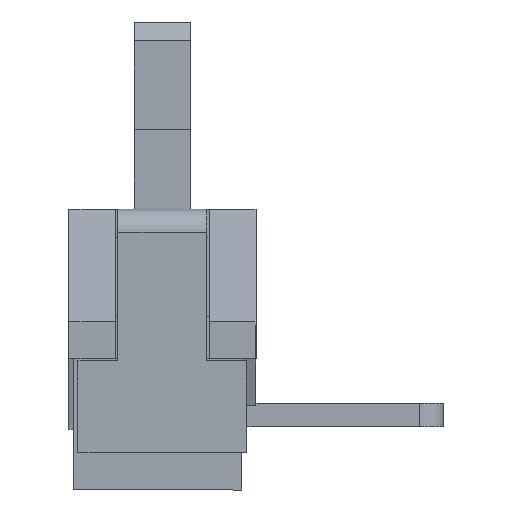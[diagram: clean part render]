
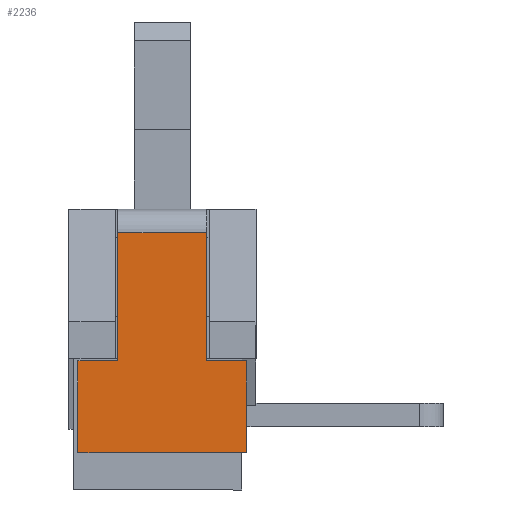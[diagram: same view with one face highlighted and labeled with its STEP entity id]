
A CAD part, left-side view. The second image highlights one B-rep face of the part: STEP entity #2236.
In plain terms, the highlighted planar face has unit normal (-1, 0, 0).
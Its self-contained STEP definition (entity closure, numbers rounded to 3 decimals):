
#52 = VERTEX_POINT ( 'NONE', #5825 ) ;
#108 = LINE ( 'NONE', #2385, #620 ) ;
#171 = CARTESIAN_POINT ( 'NONE',  ( -4.4, 1.902, -0.1 ) ) ;
#183 = DIRECTION ( 'NONE',  ( 0., 0., -1. ) ) ;
#408 = VECTOR ( 'NONE', #183, 1000. ) ;
#458 = ORIENTED_EDGE ( 'NONE', *, *, #544, .T. ) ;
#544 = EDGE_CURVE ( 'NONE', #694, #2126, #2013, .T. ) ;
#620 = VECTOR ( 'NONE', #2724, 1000. ) ;
#653 = ORIENTED_EDGE ( 'NONE', *, *, #4551, .F. ) ;
#666 = ORIENTED_EDGE ( 'NONE', *, *, #5855, .F. ) ;
#694 = VERTEX_POINT ( 'NONE', #4537 ) ;
#932 = CARTESIAN_POINT ( 'NONE',  ( -4.4, 0., 1.25 ) ) ;
#1128 = DIRECTION ( 'NONE',  ( 0., 1., 0. ) ) ;
#1305 = EDGE_CURVE ( 'NONE', #2792, #3727, #1717, .T. ) ;
#1551 = VECTOR ( 'NONE', #5232, 1000. ) ;
#1655 = LINE ( 'NONE', #5398, #2778 ) ;
#1717 = LINE ( 'NONE', #1871, #4238 ) ;
#1830 = DIRECTION ( 'NONE',  ( 0., 0., 1. ) ) ;
#1871 = CARTESIAN_POINT ( 'NONE',  ( -4.4, 0.102, -0.6 ) ) ;
#1980 = PLANE ( 'NONE',  #4007 ) ;
#1999 = EDGE_CURVE ( 'NONE', #52, #694, #3883, .T. ) ;
#2013 = LINE ( 'NONE', #932, #4510 ) ;
#2072 = ORIENTED_EDGE ( 'NONE', *, *, #5091, .T. ) ;
#2126 = VERTEX_POINT ( 'NONE', #2796 ) ;
#2236 = ADVANCED_FACE ( 'NONE', ( #3590 ), #1980, .T. ) ;
#2264 = VECTOR ( 'NONE', #3336, 1000. ) ;
#2312 = CARTESIAN_POINT ( 'NONE',  ( -4.4, 1.902, -0.12 ) ) ;
#2314 = VERTEX_POINT ( 'NONE', #2312 ) ;
#2385 = CARTESIAN_POINT ( 'NONE',  ( -4.4, 1.477, -0.1 ) ) ;
#2599 = VERTEX_POINT ( 'NONE', #3367 ) ;
#2724 = DIRECTION ( 'NONE',  ( 0., 0., 1. ) ) ;
#2737 = EDGE_CURVE ( 'NONE', #3915, #2126, #108, .T. ) ;
#2778 = VECTOR ( 'NONE', #5001, 1000. ) ;
#2792 = VERTEX_POINT ( 'NONE', #4347 ) ;
#2796 = CARTESIAN_POINT ( 'NONE',  ( -4.4, 1.477, 1.25 ) ) ;
#2821 = EDGE_LOOP ( 'NONE', ( #666, #5294, #458, #3501, #653, #2072, #4387, #6067 ) ) ;
#3013 = CARTESIAN_POINT ( 'NONE',  ( -4.4, 0., 0. ) ) ;
#3336 = DIRECTION ( 'NONE',  ( 0., -1., 0. ) ) ;
#3367 = CARTESIAN_POINT ( 'NONE',  ( -4.4, 1.902, -1.1 ) ) ;
#3380 = CARTESIAN_POINT ( 'NONE',  ( -4.4, 0.102, -1.1 ) ) ;
#3501 = ORIENTED_EDGE ( 'NONE', *, *, #2737, .F. ) ;
#3590 = FACE_OUTER_BOUND ( 'NONE', #2821, .T. ) ;
#3618 = DIRECTION ( 'NONE',  ( 0., 0., 1. ) ) ;
#3727 = VERTEX_POINT ( 'NONE', #4253 ) ;
#3883 = LINE ( 'NONE', #5060, #5099 ) ;
#3915 = VERTEX_POINT ( 'NONE', #4399 ) ;
#4007 = AXIS2_PLACEMENT_3D ( 'NONE', #3013, #5877, #5860 ) ;
#4094 = LINE ( 'NONE', #5251, #1551 ) ;
#4238 = VECTOR ( 'NONE', #1830, 1000. ) ;
#4253 = CARTESIAN_POINT ( 'NONE',  ( -4.4, 0.102, -0.12 ) ) ;
#4347 = CARTESIAN_POINT ( 'NONE',  ( -4.4, 0.102, -1.1 ) ) ;
#4387 = ORIENTED_EDGE ( 'NONE', *, *, #4669, .T. ) ;
#4399 = CARTESIAN_POINT ( 'NONE',  ( -4.4, 1.477, -0.12 ) ) ;
#4510 = VECTOR ( 'NONE', #1128, 1000. ) ;
#4537 = CARTESIAN_POINT ( 'NONE',  ( -4.4, 0.527, 1.25 ) ) ;
#4551 = EDGE_CURVE ( 'NONE', #2314, #3915, #4094, .T. ) ;
#4669 = EDGE_CURVE ( 'NONE', #2599, #2792, #5978, .T. ) ;
#5001 = DIRECTION ( 'NONE',  ( 0., -1., 0. ) ) ;
#5060 = CARTESIAN_POINT ( 'NONE',  ( -4.4, 0.527, -0.1 ) ) ;
#5091 = EDGE_CURVE ( 'NONE', #2314, #2599, #5268, .T. ) ;
#5099 = VECTOR ( 'NONE', #3618, 1000. ) ;
#5232 = DIRECTION ( 'NONE',  ( 0., -1., 0. ) ) ;
#5251 = CARTESIAN_POINT ( 'NONE',  ( -4.4, 1.477, -0.12 ) ) ;
#5268 = LINE ( 'NONE', #171, #408 ) ;
#5294 = ORIENTED_EDGE ( 'NONE', *, *, #1999, .T. ) ;
#5398 = CARTESIAN_POINT ( 'NONE',  ( -4.4, 0.527, -0.12 ) ) ;
#5825 = CARTESIAN_POINT ( 'NONE',  ( -4.4, 0.527, -0.12 ) ) ;
#5855 = EDGE_CURVE ( 'NONE', #52, #3727, #1655, .T. ) ;
#5860 = DIRECTION ( 'NONE',  ( 0., 0., 1. ) ) ;
#5877 = DIRECTION ( 'NONE',  ( -1., 0., 0. ) ) ;
#5978 = LINE ( 'NONE', #3380, #2264 ) ;
#6067 = ORIENTED_EDGE ( 'NONE', *, *, #1305, .T. ) ;
